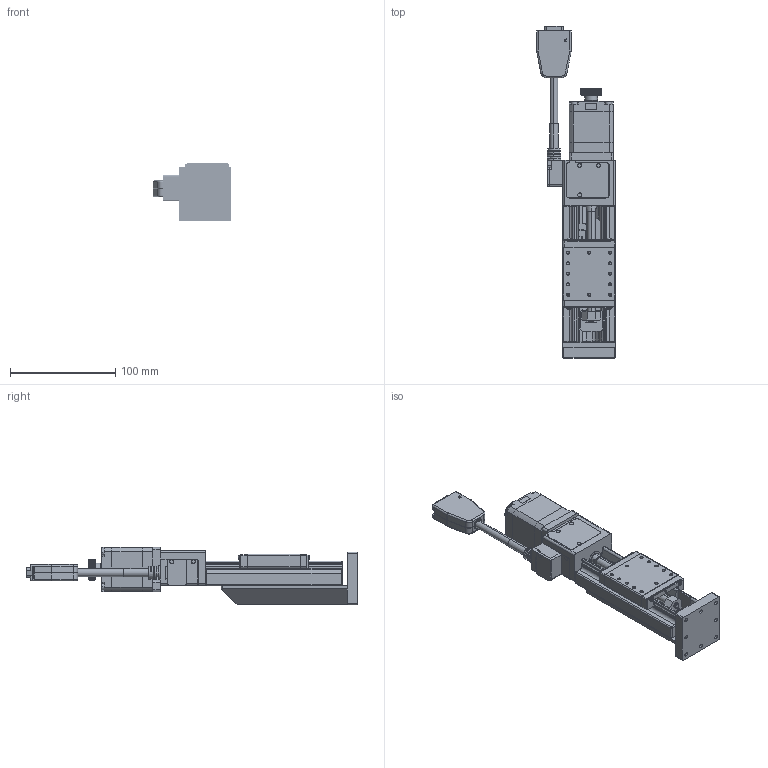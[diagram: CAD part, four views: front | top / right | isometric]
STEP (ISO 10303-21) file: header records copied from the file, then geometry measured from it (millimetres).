
FILE_DESCRIPTION (( 'STEP AP203' ), '1' );
FILE_NAME ('CZLN5050-S2?N.STEP', '2023-10-02T02:53:18', ( '' ), ( '' ), 'SwSTEP 2.0', 'SolidWorks 2019', '' );
FILE_SCHEMA (( 'CONFIG_CONTROL_DESIGN' ));
Length unit declared in the file: millimetre
Products named in the file (3): Group2^CZLN5050-S2?N(2023新版)_defeature_GMT; Group1^CZLN5050-S2?N(2023新版)_defeature_GMT; CZLN5050-S2?N
Assembly tree (2 placements, depth 2):
  CZLN5050-S2?N
    Group1^CZLN5050-S2?N(2023新版)_defeature_GMT
    Group2^CZLN5050-S2?N(2023新版)_defeature_GMT
Bounding box: 75 x 315.6 x 54.7 mm (x, y, z)
Volume: 30748.9 mm3; surface area: 133655.5 mm2
Topology: 1 solids, 38 shells, 4766 faces, 12380 edges, 7645 vertices
Faces by surface type: plane 1634, cylinder 1417, cone 863, torus 436, bspline 292, sphere 124
Entity records: 158355 total; most frequent: CARTESIAN_POINT 42818, DIRECTION 24551, ORIENTED_EDGE 24356, EDGE_CURVE 12178, AXIS2_PLACEMENT_3D 9426, VERTEX_POINT 7611, VECTOR 5699, LINE 5699
